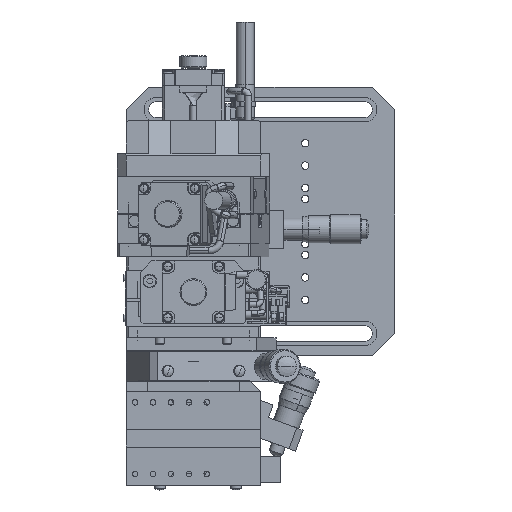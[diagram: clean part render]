
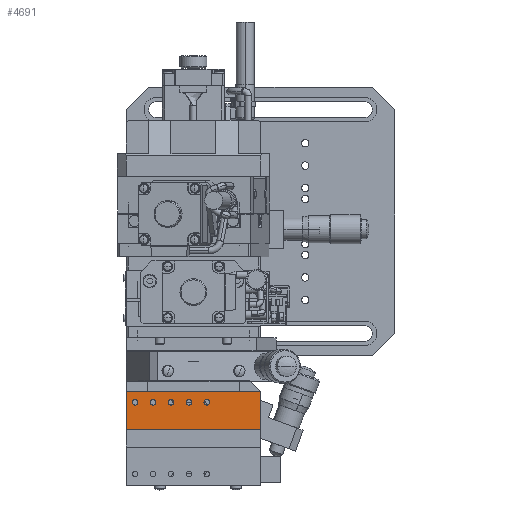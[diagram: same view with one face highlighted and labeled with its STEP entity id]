
A CAD part, top view. The second image highlights one B-rep face of the part: STEP entity #4691.
In plain terms, the highlighted planar face has unit normal (0, 0, 1).
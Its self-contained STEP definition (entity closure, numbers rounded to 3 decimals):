
#4691=ADVANCED_FACE('',(#12084,#12085,#12086,#12087,#12088,#12089),#12090,.T.);
#12084=FACE_OUTER_BOUND('',#20500,.T.);
#12085=FACE_BOUND('',#20501,.T.);
#12086=FACE_BOUND('',#20502,.T.);
#12087=FACE_BOUND('',#20503,.T.);
#12088=FACE_BOUND('',#20504,.T.);
#12089=FACE_BOUND('',#20505,.T.);
#12090=PLANE('',#20506);
#20500=EDGE_LOOP('',(#47927,#47928,#47929,#47930));
#20501=EDGE_LOOP('',(#47931,#47932));
#20502=EDGE_LOOP('',(#47933,#47934));
#20503=EDGE_LOOP('',(#47935,#47936));
#20504=EDGE_LOOP('',(#47937,#47938));
#20505=EDGE_LOOP('',(#47939,#47940));
#20506=AXIS2_PLACEMENT_3D('',#47941,#47942,#47943);
#47927=ORIENTED_EDGE('',*,*,#59242,.F.);
#47928=ORIENTED_EDGE('',*,*,#59223,.F.);
#47929=ORIENTED_EDGE('',*,*,#59176,.F.);
#47930=ORIENTED_EDGE('',*,*,#59243,.T.);
#47931=ORIENTED_EDGE('',*,*,#59160,.T.);
#47932=ORIENTED_EDGE('',*,*,#59239,.T.);
#47933=ORIENTED_EDGE('',*,*,#59152,.T.);
#47934=ORIENTED_EDGE('',*,*,#59244,.T.);
#47935=ORIENTED_EDGE('',*,*,#59128,.T.);
#47936=ORIENTED_EDGE('',*,*,#59245,.T.);
#47937=ORIENTED_EDGE('',*,*,#59164,.T.);
#47938=ORIENTED_EDGE('',*,*,#59236,.T.);
#47939=ORIENTED_EDGE('',*,*,#59156,.T.);
#47940=ORIENTED_EDGE('',*,*,#59241,.T.);
#47941=CARTESIAN_POINT('',(50.02,-97.,119.));
#47942=DIRECTION('',(0.,0.,1.0));
#47943=DIRECTION('',(1.0,0.,0.));
#59128=EDGE_CURVE('',#74031,#74035,#74037,.T.);
#59152=EDGE_CURVE('',#74079,#74083,#74085,.T.);
#59156=EDGE_CURVE('',#74087,#74091,#74093,.T.);
#59160=EDGE_CURVE('',#74095,#74099,#74101,.T.);
#59164=EDGE_CURVE('',#74103,#74107,#74109,.T.);
#59176=EDGE_CURVE('',#74129,#74132,#74133,.T.);
#59223=EDGE_CURVE('',#74132,#74205,#74206,.T.);
#59236=EDGE_CURVE('',#74107,#74103,#74223,.T.);
#59239=EDGE_CURVE('',#74099,#74095,#74227,.T.);
#59241=EDGE_CURVE('',#74091,#74087,#74229,.T.);
#59242=EDGE_CURVE('',#74205,#74230,#74231,.T.);
#59243=EDGE_CURVE('',#74129,#74230,#74232,.T.);
#59244=EDGE_CURVE('',#74083,#74079,#74233,.T.);
#59245=EDGE_CURVE('',#74035,#74031,#74234,.T.);
#74031=VERTEX_POINT('',#96001);
#74035=VERTEX_POINT('',#96006);
#74037=CIRCLE('',#96009,1.25);
#74079=VERTEX_POINT('',#96061);
#74083=VERTEX_POINT('',#96066);
#74085=CIRCLE('',#96069,1.25);
#74087=VERTEX_POINT('',#96071);
#74091=VERTEX_POINT('',#96076);
#74093=CIRCLE('',#96079,1.25);
#74095=VERTEX_POINT('',#96081);
#74099=VERTEX_POINT('',#96086);
#74101=CIRCLE('',#96089,1.25);
#74103=VERTEX_POINT('',#96091);
#74107=VERTEX_POINT('',#96096);
#74109=CIRCLE('',#96099,1.25);
#74129=VERTEX_POINT('',#96123);
#74132=VERTEX_POINT('',#96127);
#74133=LINE('',#96128,#96129);
#74205=VERTEX_POINT('',#96232);
#74206=LINE('',#96233,#96234);
#74223=CIRCLE('',#96263,1.25);
#74227=CIRCLE('',#96269,1.25);
#74229=CIRCLE('',#96271,1.25);
#74230=VERTEX_POINT('',#96272);
#74231=LINE('',#96273,#96274);
#74232=LINE('',#96275,#96276);
#74233=CIRCLE('',#96277,1.25);
#74234=CIRCLE('',#96278,1.25);
#96001=CARTESIAN_POINT('',(38.77,-81.,119.));
#96006=CARTESIAN_POINT('',(41.27,-81.,119.));
#96009=AXIS2_PLACEMENT_3D('',#112928,#112929,#112930);
#96061=CARTESIAN_POINT('',(46.77,-81.,119.));
#96066=CARTESIAN_POINT('',(49.27,-81.,119.));
#96069=AXIS2_PLACEMENT_3D('',#112976,#112977,#112978);
#96071=CARTESIAN_POINT('',(22.77,-81.,119.));
#96076=CARTESIAN_POINT('',(25.27,-81.,119.));
#96079=AXIS2_PLACEMENT_3D('',#112984,#112985,#112986);
#96081=CARTESIAN_POINT('',(54.77,-81.,119.));
#96086=CARTESIAN_POINT('',(57.27,-81.,119.));
#96089=AXIS2_PLACEMENT_3D('',#112992,#112993,#112994);
#96091=CARTESIAN_POINT('',(30.77,-81.,119.));
#96096=CARTESIAN_POINT('',(33.27,-81.,119.));
#96099=AXIS2_PLACEMENT_3D('',#113000,#113001,#113002);
#96123=CARTESIAN_POINT('',(20.02,-93.,119.));
#96127=CARTESIAN_POINT('',(20.02,-76.,119.));
#96128=CARTESIAN_POINT('',(20.02,-97.,119.));
#96129=VECTOR('',#113026,1000.0);
#96232=CARTESIAN_POINT('',(80.02,-76.,119.));
#96233=CARTESIAN_POINT('',(50.02,-76.,119.));
#96234=VECTOR('',#113103,1000.0);
#96263=AXIS2_PLACEMENT_3D('',#113116,#113117,#113118);
#96269=AXIS2_PLACEMENT_3D('',#113121,#113122,#113123);
#96271=AXIS2_PLACEMENT_3D('',#113127,#113128,#113129);
#96272=CARTESIAN_POINT('',(80.02,-93.,119.));
#96273=CARTESIAN_POINT('',(80.02,-97.,119.));
#96274=VECTOR('',#113130,1000.0);
#96275=CARTESIAN_POINT('',(50.02,-93.,119.));
#96276=VECTOR('',#113131,1000.0);
#96277=AXIS2_PLACEMENT_3D('',#113132,#113133,#113134);
#96278=AXIS2_PLACEMENT_3D('',#113135,#113136,#113137);
#112928=CARTESIAN_POINT('',(40.02,-81.,119.));
#112929=DIRECTION('',(0.,0.,-1.0));
#112930=DIRECTION('',(-1.0,0.,0.));
#112976=CARTESIAN_POINT('',(48.02,-81.,119.));
#112977=DIRECTION('',(0.,0.,-1.0));
#112978=DIRECTION('',(-1.0,0.,0.));
#112984=CARTESIAN_POINT('',(24.02,-81.,119.));
#112985=DIRECTION('',(0.,0.,-1.0));
#112986=DIRECTION('',(-1.0,0.,0.));
#112992=CARTESIAN_POINT('',(56.02,-81.,119.));
#112993=DIRECTION('',(0.,0.,-1.0));
#112994=DIRECTION('',(-1.0,0.,0.));
#113000=CARTESIAN_POINT('',(32.02,-81.,119.));
#113001=DIRECTION('',(0.,0.,-1.0));
#113002=DIRECTION('',(-1.0,0.,0.));
#113026=DIRECTION('',(0.,1.0,0.));
#113103=DIRECTION('',(1.0,0.,0.));
#113116=CARTESIAN_POINT('',(32.02,-81.,119.));
#113117=DIRECTION('',(0.,0.,-1.0));
#113118=DIRECTION('',(-1.0,0.,0.));
#113121=CARTESIAN_POINT('',(56.02,-81.,119.));
#113122=DIRECTION('',(0.,0.,-1.0));
#113123=DIRECTION('',(-1.0,0.,0.));
#113127=CARTESIAN_POINT('',(24.02,-81.,119.));
#113128=DIRECTION('',(0.,0.,-1.0));
#113129=DIRECTION('',(-1.0,0.,0.));
#113130=DIRECTION('',(0.,-1.0,0.));
#113131=DIRECTION('',(1.0,0.,0.));
#113132=CARTESIAN_POINT('',(48.02,-81.,119.));
#113133=DIRECTION('',(0.,0.,-1.0));
#113134=DIRECTION('',(-1.0,0.,0.));
#113135=CARTESIAN_POINT('',(40.02,-81.,119.));
#113136=DIRECTION('',(0.,0.,-1.0));
#113137=DIRECTION('',(-1.0,0.,0.));
